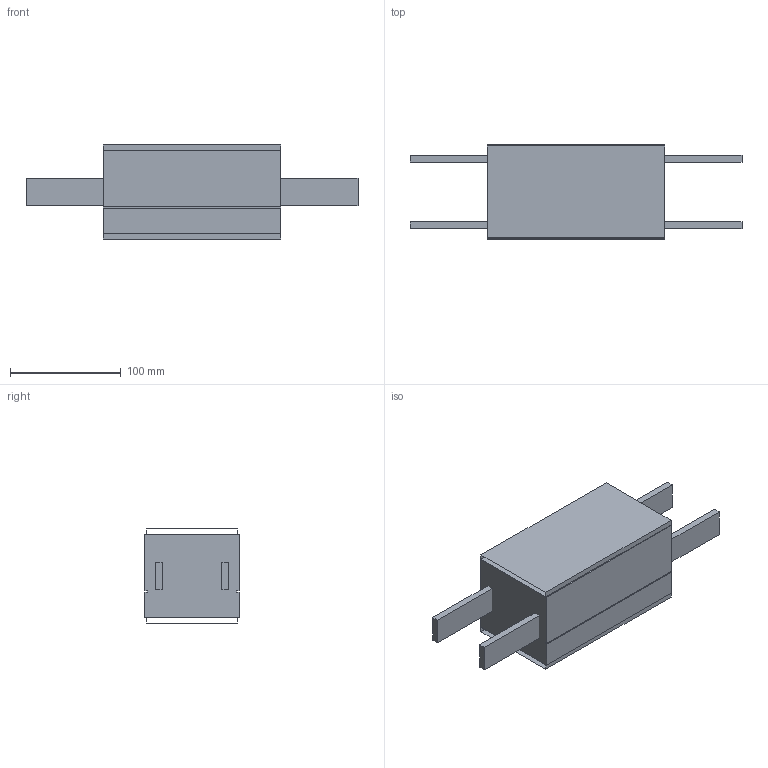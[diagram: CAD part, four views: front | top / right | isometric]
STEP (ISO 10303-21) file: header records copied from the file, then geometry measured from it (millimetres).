
FILE_DESCRIPTION(/* description */ ('Kettenmontageeinheit FM'),/* implementation_level */ '2;1');
FILE_NAME(/* name */ 'T:\vdz0\Step Daten Website\modulflex FM-System\Kettenmontageeinheit\FMCC 160_43989.stp',/* time_stamp */ '2024-08-22T09:53:09+02:00',/* author */ ('vdz0'),/* organization */ ('modular automation GmbH'),/* preprocessor_version */ 'ST-DEVELOPER v18.1',/* originating_system */ 'Autodesk Inventor 2021',/* authorisation */ '');
FILE_SCHEMA (('CONFIG_CONTROL_DESIGN'));
Length unit declared in the file: millimetre
Products named in the file (1): FMCC 160_43989
Bounding box: 300 x 85 x 85 mm (x, y, z)
Volume: 1103360 mm3; surface area: 157462 mm2
Topology: 5 solids, 7 shells, 46 faces, 108 edges, 72 vertices
Faces by surface type: plane 46
Entity records: 1351 total; most frequent: CARTESIAN_POINT 227, DIRECTION 202, ORIENTED_EDGE 200, LINE 108, VECTOR 108, EDGE_CURVE 108, VERTEX_POINT 72, AXIS2_PLACEMENT_3D 47
